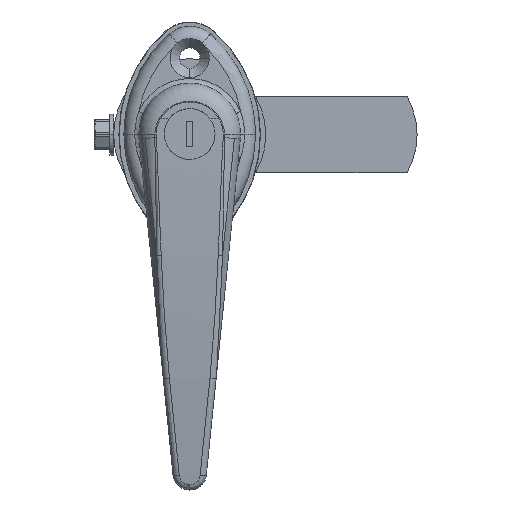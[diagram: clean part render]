
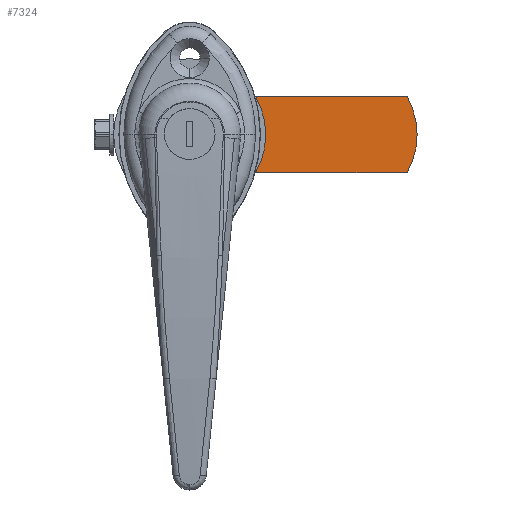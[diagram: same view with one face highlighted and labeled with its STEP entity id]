
A CAD part, top view. The second image highlights one B-rep face of the part: STEP entity #7324.
In plain terms, the highlighted planar face has unit normal (0, 0, 1).
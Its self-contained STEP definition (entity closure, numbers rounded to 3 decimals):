
#590 = DIRECTION ( 'NONE',  ( 0., -1., 0. ) ) ;
#591 = DIRECTION ( 'NONE',  ( 0., 0., 1. ) ) ;
#594 = PLANE ( 'NONE',  #3070 ) ;
#596 = CARTESIAN_POINT ( 'NONE',  ( -279.399, 725.17, -1383.384 ) ) ;
#1569 = ORIENTED_EDGE ( 'NONE', *, *, #7594, .T. ) ;
#1588 = ORIENTED_EDGE ( 'NONE', *, *, #7502, .T. ) ;
#1608 = ORIENTED_EDGE ( 'NONE', *, *, #7507, .T. ) ;
#1610 = ORIENTED_EDGE ( 'NONE', *, *, #7519, .F. ) ;
#1625 = ORIENTED_EDGE ( 'NONE', *, *, #7549, .F. ) ;
#1640 = ORIENTED_EDGE ( 'NONE', *, *, #7548, .T. ) ;
#1649 = ORIENTED_EDGE ( 'NONE', *, *, #7599, .T. ) ;
#1660 = ORIENTED_EDGE ( 'NONE', *, *, #7555, .F. ) ;
#1817 = FACE_BOUND ( 'NONE', #2055, .T. ) ;
#2055 = EDGE_LOOP ( 'NONE', ( #2397, #1569, #1588, #1608 ) ) ;
#2064 = EDGE_LOOP ( 'NONE', ( #1610, #1625, #1640, #1649, #1660 ) ) ;
#2272 = FACE_OUTER_BOUND ( 'NONE', #2064, .T. ) ;
#2397 = ORIENTED_EDGE ( 'NONE', *, *, #7576, .T. ) ;
#2818 = AXIS2_PLACEMENT_3D ( 'NONE', #4519, #4513, #4512 ) ;
#2961 = VECTOR ( 'NONE', #4661, 1000. ) ;
#3000 = VECTOR ( 'NONE', #4602, 1000. ) ;
#3031 = LINE ( 'NONE', #4603, #3000 ) ;
#3041 = AXIS2_PLACEMENT_3D ( 'NONE', #4333, #14864, #14867 ) ;
#3070 = AXIS2_PLACEMENT_3D ( 'NONE', #596, #591, #590 ) ;
#3168 = VECTOR ( 'NONE', #4644, 1000. ) ;
#3186 = LINE ( 'NONE', #4645, #3168 ) ;
#3297 = CIRCLE ( 'NONE', #3041, 490.219 ) ;
#3363 = VECTOR ( 'NONE', #4496, 1000. ) ;
#3400 = LINE ( 'NONE', #4522, #3739 ) ;
#3407 = CIRCLE ( 'NONE', #2818, 490.219 ) ;
#3428 = VECTOR ( 'NONE', #4406, 1000. ) ;
#3430 = LINE ( 'NONE', #4407, #3428 ) ;
#3471 = LINE ( 'NONE', #4506, #3363 ) ;
#3641 = LINE ( 'NONE', #8151, #3653 ) ;
#3642 = LINE ( 'NONE', #4662, #2961 ) ;
#3653 = VECTOR ( 'NONE', #8155, 1000. ) ;
#3739 = VECTOR ( 'NONE', #4510, 1000. ) ;
#4333 = CARTESIAN_POINT ( 'NONE',  ( 952.498, 483.87, -1383.384 ) ) ;
#4406 = DIRECTION ( 'NONE',  ( -1., 0., 0. ) ) ;
#4407 = CARTESIAN_POINT ( 'NONE',  ( 581.659, 382.27, -1383.384 ) ) ;
#4496 = DIRECTION ( 'NONE',  ( 1., 0., 0. ) ) ;
#4506 = CARTESIAN_POINT ( 'NONE',  ( 524.509, 725.17, -1383.384 ) ) ;
#4510 = DIRECTION ( 'NONE',  ( -1., 0., 0. ) ) ;
#4512 = DIRECTION ( 'NONE',  ( 1., 0., 0. ) ) ;
#4513 = DIRECTION ( 'NONE',  ( 0., 0., 1. ) ) ;
#4519 = CARTESIAN_POINT ( 'NONE',  ( 952.498, 483.87, -1383.384 ) ) ;
#4522 = CARTESIAN_POINT ( 'NONE',  ( 524.509, 242.57, -1383.384 ) ) ;
#4602 = DIRECTION ( 'NONE',  ( 0., 1., 0. ) ) ;
#4603 = CARTESIAN_POINT ( 'NONE',  ( -279.399, 483.87, -1383.384 ) ) ;
#4644 = DIRECTION ( 'NONE',  ( 0., -1., 0. ) ) ;
#4645 = CARTESIAN_POINT ( 'NONE',  ( 101.6, 483.87, -1383.384 ) ) ;
#4661 = DIRECTION ( 'NONE',  ( 1., 0., 0. ) ) ;
#4662 = CARTESIAN_POINT ( 'NONE',  ( 581.659, 585.47, -1383.384 ) ) ;
#7324 = ADVANCED_FACE ( 'NONE', ( #1817, #2272 ), #594, .T. ) ;
#7502 = EDGE_CURVE ( 'NONE', #12091, #12169, #3642, .T. ) ;
#7507 = EDGE_CURVE ( 'NONE', #12169, #12041, #3186, .T. ) ;
#7519 = EDGE_CURVE ( 'NONE', #12138, #12090, #3031, .T. ) ;
#7548 = EDGE_CURVE ( 'NONE', #12150, #12101, #3407, .T. ) ;
#7549 = EDGE_CURVE ( 'NONE', #12150, #12138, #3400, .T. ) ;
#7555 = EDGE_CURVE ( 'NONE', #12090, #12135, #3471, .T. ) ;
#7576 = EDGE_CURVE ( 'NONE', #12041, #12108, #3430, .T. ) ;
#7594 = EDGE_CURVE ( 'NONE', #12108, #12091, #3641, .T. ) ;
#7599 = EDGE_CURVE ( 'NONE', #12101, #12135, #3297, .T. ) ;
#8151 = CARTESIAN_POINT ( 'NONE',  ( -101.6, 483.87, -1383.384 ) ) ;
#8155 = DIRECTION ( 'NONE',  ( 0., 1., 0. ) ) ;
#12041 = VERTEX_POINT ( 'NONE', #14493 ) ;
#12090 = VERTEX_POINT ( 'NONE', #14558 ) ;
#12091 = VERTEX_POINT ( 'NONE', #14510 ) ;
#12101 = VERTEX_POINT ( 'NONE', #14513 ) ;
#12108 = VERTEX_POINT ( 'NONE', #14525 ) ;
#12135 = VERTEX_POINT ( 'NONE', #14402 ) ;
#12138 = VERTEX_POINT ( 'NONE', #14406 ) ;
#12150 = VERTEX_POINT ( 'NONE', #14203 ) ;
#12169 = VERTEX_POINT ( 'NONE', #15159 ) ;
#14203 = CARTESIAN_POINT ( 'NONE',  ( 1379.217, 242.57, -1383.384 ) ) ;
#14402 = CARTESIAN_POINT ( 'NONE',  ( 1379.217, 725.17, -1383.384 ) ) ;
#14406 = CARTESIAN_POINT ( 'NONE',  ( -279.399, 242.57, -1383.384 ) ) ;
#14493 = CARTESIAN_POINT ( 'NONE',  ( 101.6, 382.27, -1383.384 ) ) ;
#14510 = CARTESIAN_POINT ( 'NONE',  ( -101.6, 585.47, -1383.384 ) ) ;
#14513 = CARTESIAN_POINT ( 'NONE',  ( 1442.717, 483.87, -1383.384 ) ) ;
#14525 = CARTESIAN_POINT ( 'NONE',  ( -101.6, 382.27, -1383.384 ) ) ;
#14558 = CARTESIAN_POINT ( 'NONE',  ( -279.399, 725.17, -1383.384 ) ) ;
#14864 = DIRECTION ( 'NONE',  ( 0., 0., 1. ) ) ;
#14867 = DIRECTION ( 'NONE',  ( 1., 0., 0. ) ) ;
#15159 = CARTESIAN_POINT ( 'NONE',  ( 101.6, 585.47, -1383.384 ) ) ;
